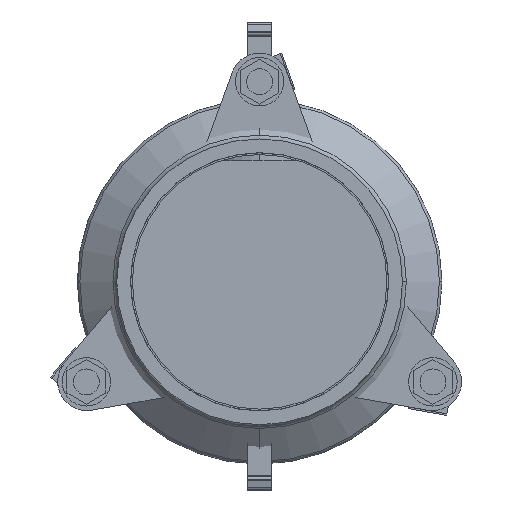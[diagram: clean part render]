
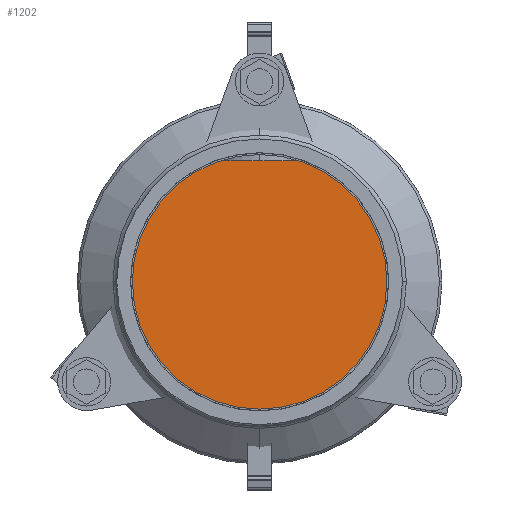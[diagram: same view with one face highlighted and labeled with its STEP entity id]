
A CAD part, left-side view. The second image highlights one B-rep face of the part: STEP entity #1202.
In plain terms, the highlighted planar face has unit normal (-1, 0, 0).
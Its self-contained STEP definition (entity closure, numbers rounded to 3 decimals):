
#1202=ADVANCED_FACE('',(#2222),#2223,.T.);
#2222=FACE_OUTER_BOUND('',#3320,.T.);
#2223=PLANE('',#3321);
#3320=EDGE_LOOP('',(#5533,#5534));
#3321=AXIS2_PLACEMENT_3D('',#5535,#5536,#5537);
#5533=ORIENTED_EDGE('',*,*,#6815,.T.);
#5534=ORIENTED_EDGE('',*,*,#6816,.T.);
#5535=CARTESIAN_POINT('',(104.0,0.0,0.));
#5536=DIRECTION('',(-1.0,0.0,0.));
#5537=DIRECTION('',(0.,0.0,-1.0));
#6815=EDGE_CURVE('',#8193,#8194,#8195,.T.);
#6816=EDGE_CURVE('',#8194,#8193,#8196,.T.);
#8193=VERTEX_POINT('',#10326);
#8194=VERTEX_POINT('',#10327);
#8195=CIRCLE('',#10328,90.0);
#8196=CIRCLE('',#10329,90.0);
#10326=CARTESIAN_POINT('',(104.0,0.0,-90.0));
#10327=CARTESIAN_POINT('',(104.0,0.,90.0));
#10328=AXIS2_PLACEMENT_3D('',#11434,#11435,#11436);
#10329=AXIS2_PLACEMENT_3D('',#11437,#11438,#11439);
#11434=CARTESIAN_POINT('',(104.0,0.0,0.));
#11435=DIRECTION('',(-1.0,0.0,0.));
#11436=DIRECTION('',(0.,0.0,-1.0));
#11437=CARTESIAN_POINT('',(104.0,0.0,0.));
#11438=DIRECTION('',(-1.0,0.0,0.));
#11439=DIRECTION('',(0.,0.0,-1.0));
